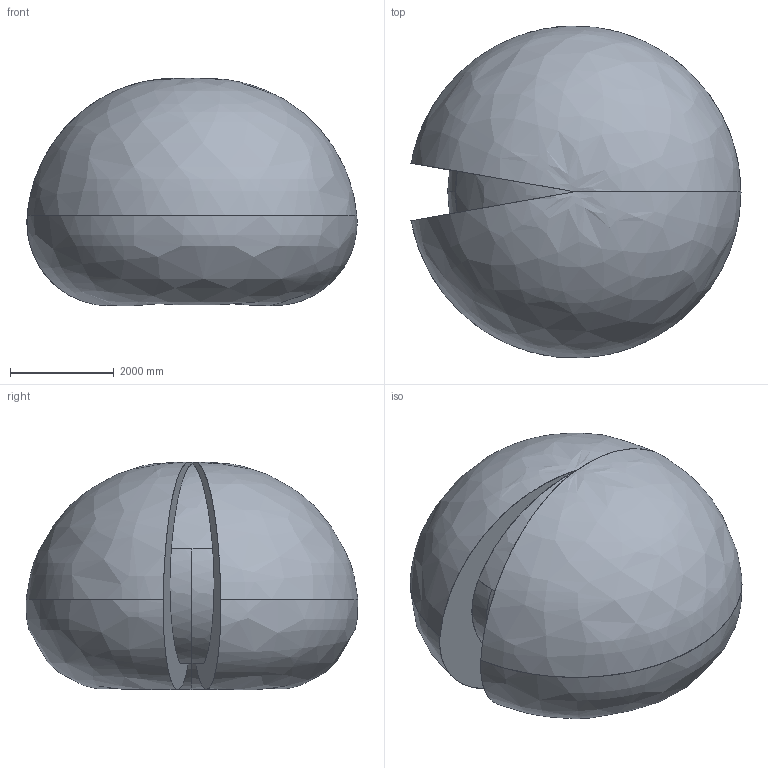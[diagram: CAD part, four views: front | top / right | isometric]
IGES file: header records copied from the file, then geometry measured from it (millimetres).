
Start section: SolidWorks IGES file using analytic representation for surfaces
Global section: file name: C:\Data\SAP_DOC\LW\IRB 6720\IRB6720_160kg-320_OC_01_SW_J\IRB6720_160kg-320_OC_01_IGES_J\IRB6720_160kg-320_OC_00_Working-space.igs; native system: SolidWorks 2024; preprocessor: SolidWorks 2024; author: SEJOVAS3; date: 260610.124057; units: millimetre
Bounding box: 6351.41 x 6384.27 x 4371.64 mm (x, y, z)
Surface area: 132988278.3 mm2 (no closed solid volume)
Topology: 0 solids, 0 shells, 15 faces, 441 edges, 436 vertices
Faces by surface type: bspline 15
